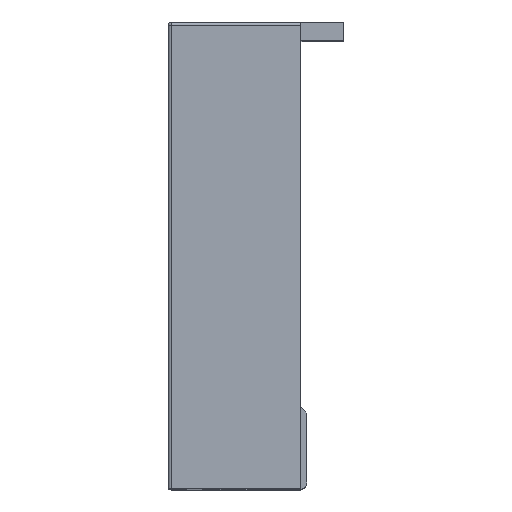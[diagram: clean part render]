
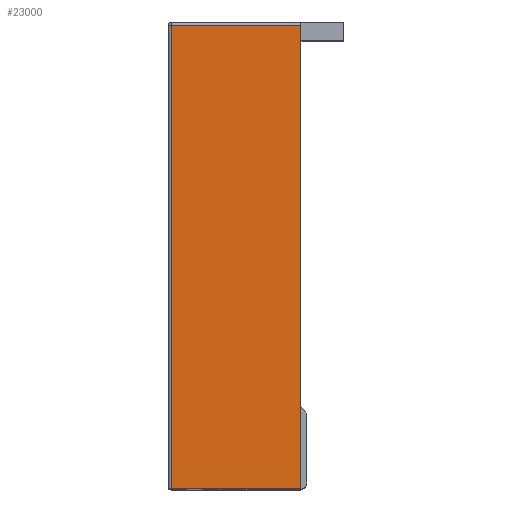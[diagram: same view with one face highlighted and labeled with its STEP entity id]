
A CAD part, top view. The second image highlights one B-rep face of the part: STEP entity #23000.
In plain terms, the highlighted planar face has unit normal (0, 0, 1) as drawn and (1, 0, 0) by its records, which use the part's own axes.
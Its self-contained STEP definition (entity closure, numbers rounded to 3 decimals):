
#815 = AXIS2_PLACEMENT_3D ( 'NONE', #24639, #12075, #6502 ) ;
#4715 = DIRECTION ( 'NONE',  ( 0., 0., 1. ) ) ;
#5138 = CARTESIAN_POINT ( 'NONE',  ( 0., 0., 0. ) ) ;
#5201 = CARTESIAN_POINT ( 'NONE',  ( 0., 74.55, 20.75 ) ) ;
#6153 = VERTEX_POINT ( 'NONE', #20495 ) ;
#6461 = LINE ( 'NONE', #24865, #7752 ) ;
#6502 = DIRECTION ( 'NONE',  ( 0., 0., 1. ) ) ;
#6673 = LINE ( 'NONE', #5201, #10712 ) ;
#7126 = LINE ( 'NONE', #15094, #12796 ) ;
#7752 = VECTOR ( 'NONE', #4715, 1000. ) ;
#8314 = ORIENTED_EDGE ( 'NONE', *, *, #13641, .T. ) ;
#8488 = FACE_OUTER_BOUND ( 'NONE', #23301, .T. ) ;
#9122 = VERTEX_POINT ( 'NONE', #26032 ) ;
#10547 = LINE ( 'NONE', #18234, #19631 ) ;
#10712 = VECTOR ( 'NONE', #22956, 1000. ) ;
#11796 = VERTEX_POINT ( 'NONE', #19572 ) ;
#12075 = DIRECTION ( 'NONE',  ( -1., 0., 0. ) ) ;
#12139 = ORIENTED_EDGE ( 'NONE', *, *, #26125, .T. ) ;
#12265 = DIRECTION ( 'NONE',  ( 0., 1., 0. ) ) ;
#12796 = VECTOR ( 'NONE', #21435, 1000. ) ;
#13641 = EDGE_CURVE ( 'NONE', #23695, #9122, #10547, .T. ) ;
#13723 = ORIENTED_EDGE ( 'NONE', *, *, #20187, .T. ) ;
#15094 = CARTESIAN_POINT ( 'NONE',  ( 0., 0., 20.75 ) ) ;
#16834 = ORIENTED_EDGE ( 'NONE', *, *, #16841, .T. ) ;
#16841 = EDGE_CURVE ( 'NONE', #11796, #6153, #6673, .T. ) ;
#18234 = CARTESIAN_POINT ( 'NONE',  ( 0., 0., 0. ) ) ;
#19572 = CARTESIAN_POINT ( 'NONE',  ( 0., 74.55, 20.75 ) ) ;
#19631 = VECTOR ( 'NONE', #12265, 1000. ) ;
#20187 = EDGE_CURVE ( 'NONE', #6153, #23695, #7126, .T. ) ;
#20495 = CARTESIAN_POINT ( 'NONE',  ( 0., 0., 20.75 ) ) ;
#21435 = DIRECTION ( 'NONE',  ( 0., 0., -1. ) ) ;
#22134 = PLANE ( 'NONE',  #815 ) ;
#22956 = DIRECTION ( 'NONE',  ( 0., -1., 0. ) ) ;
#23000 = ADVANCED_FACE ( 'NONE', ( #8488 ), #22134, .F. ) ;
#23301 = EDGE_LOOP ( 'NONE', ( #13723, #8314, #12139, #16834 ) ) ;
#23695 = VERTEX_POINT ( 'NONE', #5138 ) ;
#24639 = CARTESIAN_POINT ( 'NONE',  ( 0., 36.775, 35.875 ) ) ;
#24865 = CARTESIAN_POINT ( 'NONE',  ( 0., 74.55, 0. ) ) ;
#26032 = CARTESIAN_POINT ( 'NONE',  ( 0., 74.55, 0. ) ) ;
#26125 = EDGE_CURVE ( 'NONE', #9122, #11796, #6461, .T. ) ;
